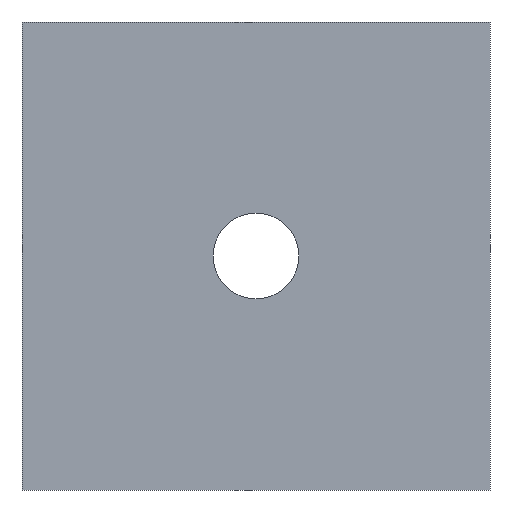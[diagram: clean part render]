
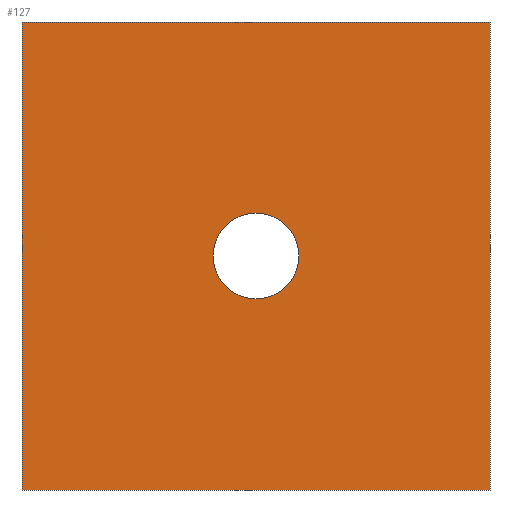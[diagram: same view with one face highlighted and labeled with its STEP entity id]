
A CAD part, front view. The second image highlights one B-rep face of the part: STEP entity #127.
In plain terms, the highlighted planar face has unit normal (0, -1, 0).
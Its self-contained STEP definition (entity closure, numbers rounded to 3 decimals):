
#21=CIRCLE('',#148,1.65);
#31=ORIENTED_EDGE('',*,*,#52,.T.);
#32=ORIENTED_EDGE('',*,*,#59,.F.);
#33=ORIENTED_EDGE('',*,*,#58,.F.);
#34=ORIENTED_EDGE('',*,*,#60,.T.);
#35=ORIENTED_EDGE('',*,*,#61,.T.);
#52=EDGE_CURVE('',#67,#65,#76,.T.);
#58=EDGE_CURVE('',#72,#69,#82,.T.);
#59=EDGE_CURVE('',#69,#65,#83,.T.);
#60=EDGE_CURVE('',#72,#67,#84,.T.);
#61=EDGE_CURVE('',#73,#73,#21,.T.);
#65=VERTEX_POINT('',#189);
#67=VERTEX_POINT('',#192);
#69=VERTEX_POINT('',#198);
#72=VERTEX_POINT('',#203);
#73=VERTEX_POINT('',#209);
#76=LINE('',#191,#88);
#82=LINE('',#204,#94);
#83=LINE('',#206,#95);
#84=LINE('',#207,#96);
#88=VECTOR('',#159,1000.);
#94=VECTOR('',#167,1000.);
#95=VECTOR('',#170,1000.);
#96=VECTOR('',#171,1000.);
#101=EDGE_LOOP('',(#31,#32,#33,#34));
#102=EDGE_LOOP('',(#35));
#111=FACE_BOUND('',#101,.T.);
#112=FACE_BOUND('',#102,.T.);
#121=PLANE('',#147);
#127=ADVANCED_FACE('',(#111,#112),#121,.F.);
#147=AXIS2_PLACEMENT_3D('',#205,#168,#169);
#148=AXIS2_PLACEMENT_3D('',#208,#172,#173);
#159=DIRECTION('',(0.,0.,1.));
#167=DIRECTION('',(0.,0.,1.));
#168=DIRECTION('',(0.,1.,0.));
#169=DIRECTION('',(0.,0.,1.));
#170=DIRECTION('',(1.,0.,0.));
#171=DIRECTION('',(1.,0.,0.));
#172=DIRECTION('',(0.,1.,0.));
#173=DIRECTION('',(0.,0.,1.));
#189=CARTESIAN_POINT('',(-1941.232,2182.415,-2096.831));
#191=CARTESIAN_POINT('',(-1941.232,2182.415,-2096.831));
#192=CARTESIAN_POINT('',(-1941.232,2182.415,-2114.831));
#198=CARTESIAN_POINT('',(-1959.232,2182.415,-2096.831));
#203=CARTESIAN_POINT('',(-1959.232,2182.415,-2114.831));
#204=CARTESIAN_POINT('',(-1959.232,2182.415,-2096.831));
#205=CARTESIAN_POINT('',(-1959.232,2182.415,-2096.831));
#206=CARTESIAN_POINT('',(-1959.232,2182.415,-2096.831));
#207=CARTESIAN_POINT('',(-1959.232,2182.415,-2114.831));
#208=CARTESIAN_POINT('',(-1950.232,2182.415,-2105.831));
#209=CARTESIAN_POINT('',(-1950.232,2182.415,-2104.181));
